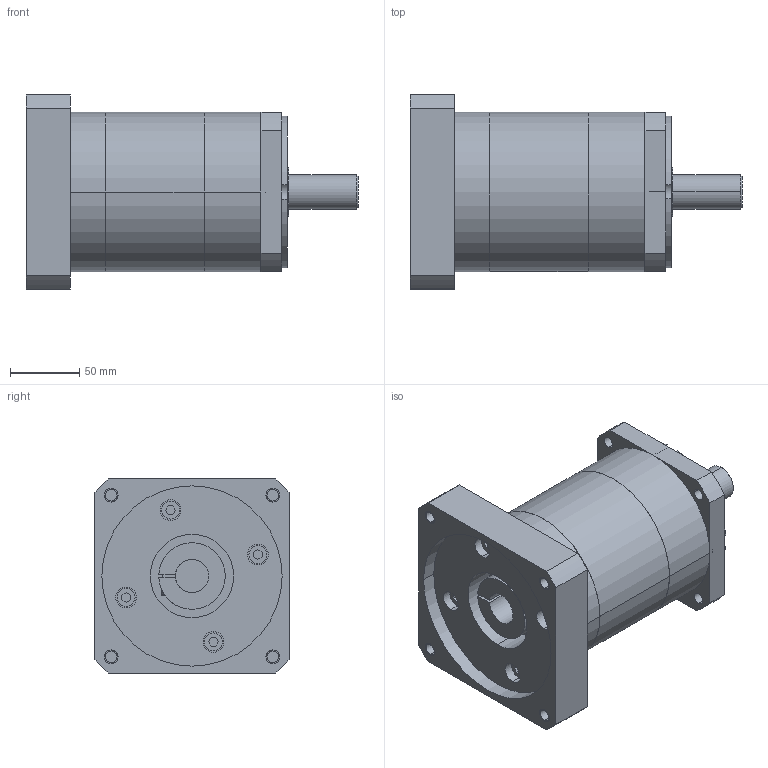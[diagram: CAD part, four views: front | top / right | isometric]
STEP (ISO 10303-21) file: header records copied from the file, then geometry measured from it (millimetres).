
FILE_DESCRIPTION((''),'2;1');
FILE_NAME('MB_PLE_MASTER','2019-07-26T',('agw'),(''),'CREO PARAMETRIC BY PTC INC, 2015290','CREO PARAMETRIC BY PTC INC, 2015290','');
FILE_SCHEMA(('AUTOMOTIVE_DESIGN { 1 0 10303 214 1 1 1 1 }'));
Length unit declared in the file: millimetre
Products named in the file (1): MB_PLE_MASTER
Bounding box: 239.5 x 140 x 140 mm (x, y, z)
Volume: 2065896.2 mm3; surface area: 171492.6 mm2
Topology: 1 solids, 10 shells, 290 faces, 672 edges, 446 vertices
Faces by surface type: plane 169, cylinder 115, torus 4, cone 2
Entity records: 8799 total; most frequent: DIRECTION 1512, CARTESIAN_POINT 1450, ORIENTED_EDGE 1328, EDGE_CURVE 672, AXIS2_PLACEMENT_3D 551, VERTEX_POINT 446, VECTOR 410, LINE 410
